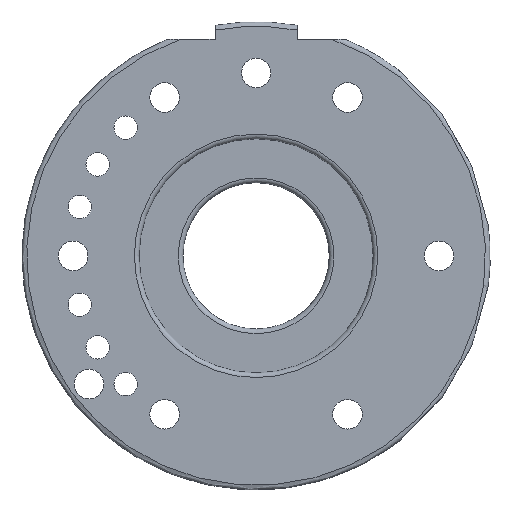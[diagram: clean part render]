
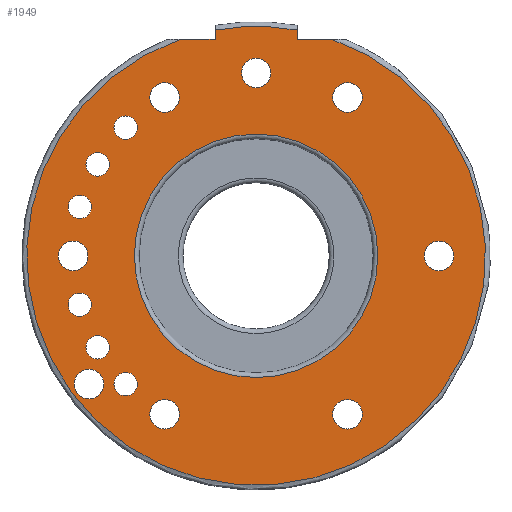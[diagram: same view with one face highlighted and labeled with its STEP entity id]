
A CAD part, front view. The second image highlights one B-rep face of the part: STEP entity #1949.
In plain terms, the highlighted planar face has unit normal (0, -1, 0).
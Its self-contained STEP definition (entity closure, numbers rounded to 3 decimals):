
#35=FACE_BOUND('',#419,.T.);
#36=FACE_BOUND('',#420,.T.);
#37=FACE_BOUND('',#421,.T.);
#38=FACE_BOUND('',#422,.T.);
#39=FACE_BOUND('',#423,.T.);
#40=FACE_BOUND('',#424,.T.);
#41=FACE_BOUND('',#425,.T.);
#42=FACE_BOUND('',#426,.T.);
#43=FACE_BOUND('',#427,.T.);
#44=FACE_BOUND('',#428,.T.);
#45=FACE_BOUND('',#429,.T.);
#46=FACE_BOUND('',#430,.T.);
#47=FACE_BOUND('',#431,.T.);
#48=FACE_BOUND('',#432,.T.);
#49=FACE_BOUND('',#433,.T.);
#149=CIRCLE('',#2073,78.4);
#173=CIRCLE('',#2114,41.6);
#178=CIRCLE('',#2119,41.6);
#179=CIRCLE('',#2121,78.4);
#180=CIRCLE('',#2122,5.053);
#181=CIRCLE('',#2123,5.053);
#182=CIRCLE('',#2124,5.053);
#183=CIRCLE('',#2125,5.053);
#184=CIRCLE('',#2126,5.053);
#185=CIRCLE('',#2127,5.053);
#186=CIRCLE('',#2128,4.);
#187=CIRCLE('',#2129,4.);
#188=CIRCLE('',#2130,4.);
#189=CIRCLE('',#2131,4.);
#190=CIRCLE('',#2132,4.);
#191=CIRCLE('',#2133,4.);
#192=CIRCLE('',#2134,5.);
#193=CIRCLE('',#2135,5.);
#194=CIRCLE('',#2136,5.05);
#315=FACE_OUTER_BOUND('',#418,.T.);
#418=EDGE_LOOP('',(#1476,#1477,#1478,#1479,#1480,#1481));
#419=EDGE_LOOP('',(#1482));
#420=EDGE_LOOP('',(#1483));
#421=EDGE_LOOP('',(#1484));
#422=EDGE_LOOP('',(#1485));
#423=EDGE_LOOP('',(#1486));
#424=EDGE_LOOP('',(#1487));
#425=EDGE_LOOP('',(#1488));
#426=EDGE_LOOP('',(#1489));
#427=EDGE_LOOP('',(#1490));
#428=EDGE_LOOP('',(#1491));
#429=EDGE_LOOP('',(#1492));
#430=EDGE_LOOP('',(#1493));
#431=EDGE_LOOP('',(#1494,#1495));
#432=EDGE_LOOP('',(#1496));
#433=EDGE_LOOP('',(#1497,#1498));
#559=LINE('',#3875,#646);
#560=LINE('',#3879,#647);
#561=LINE('',#3880,#648);
#562=LINE('',#3881,#649);
#646=VECTOR('',#2506,10.);
#647=VECTOR('',#2509,10.);
#648=VECTOR('',#2510,10.);
#649=VECTOR('',#2511,10.);
#804=VERTEX_POINT('',#3500);
#805=VERTEX_POINT('',#3513);
#844=VERTEX_POINT('',#3861);
#845=VERTEX_POINT('',#3862);
#849=VERTEX_POINT('',#3873);
#850=VERTEX_POINT('',#3874);
#851=VERTEX_POINT('',#3876);
#852=VERTEX_POINT('',#3878);
#853=VERTEX_POINT('',#3882);
#854=VERTEX_POINT('',#3884);
#855=VERTEX_POINT('',#3886);
#856=VERTEX_POINT('',#3888);
#857=VERTEX_POINT('',#3890);
#858=VERTEX_POINT('',#3892);
#859=VERTEX_POINT('',#3894);
#860=VERTEX_POINT('',#3896);
#861=VERTEX_POINT('',#3898);
#862=VERTEX_POINT('',#3900);
#863=VERTEX_POINT('',#3902);
#864=VERTEX_POINT('',#3904);
#865=VERTEX_POINT('',#3906);
#866=VERTEX_POINT('',#3907);
#867=VERTEX_POINT('',#3910);
#1035=EDGE_CURVE('',#804,#805,#149,.T.);
#1086=EDGE_CURVE('',#844,#845,#173,.T.);
#1091=EDGE_CURVE('',#845,#844,#178,.T.);
#1092=EDGE_CURVE('',#849,#850,#559,.T.);
#1093=EDGE_CURVE('',#851,#850,#179,.T.);
#1094=EDGE_CURVE('',#851,#852,#560,.T.);
#1095=EDGE_CURVE('',#852,#805,#561,.T.);
#1096=EDGE_CURVE('',#804,#849,#562,.T.);
#1097=EDGE_CURVE('',#853,#853,#180,.T.);
#1098=EDGE_CURVE('',#854,#854,#181,.T.);
#1099=EDGE_CURVE('',#855,#855,#182,.T.);
#1100=EDGE_CURVE('',#856,#856,#183,.T.);
#1101=EDGE_CURVE('',#857,#857,#184,.T.);
#1102=EDGE_CURVE('',#858,#858,#185,.T.);
#1103=EDGE_CURVE('',#859,#859,#186,.T.);
#1104=EDGE_CURVE('',#860,#860,#187,.T.);
#1105=EDGE_CURVE('',#861,#861,#188,.T.);
#1106=EDGE_CURVE('',#862,#862,#189,.T.);
#1107=EDGE_CURVE('',#863,#863,#190,.T.);
#1108=EDGE_CURVE('',#864,#864,#191,.T.);
#1109=EDGE_CURVE('',#865,#866,#192,.T.);
#1110=EDGE_CURVE('',#866,#865,#193,.T.);
#1111=EDGE_CURVE('',#867,#867,#194,.T.);
#1476=ORIENTED_EDGE('',*,*,#1092,.T.);
#1477=ORIENTED_EDGE('',*,*,#1093,.F.);
#1478=ORIENTED_EDGE('',*,*,#1094,.T.);
#1479=ORIENTED_EDGE('',*,*,#1095,.T.);
#1480=ORIENTED_EDGE('',*,*,#1035,.F.);
#1481=ORIENTED_EDGE('',*,*,#1096,.T.);
#1482=ORIENTED_EDGE('',*,*,#1097,.T.);
#1483=ORIENTED_EDGE('',*,*,#1098,.T.);
#1484=ORIENTED_EDGE('',*,*,#1099,.T.);
#1485=ORIENTED_EDGE('',*,*,#1100,.T.);
#1486=ORIENTED_EDGE('',*,*,#1101,.T.);
#1487=ORIENTED_EDGE('',*,*,#1102,.T.);
#1488=ORIENTED_EDGE('',*,*,#1103,.T.);
#1489=ORIENTED_EDGE('',*,*,#1104,.T.);
#1490=ORIENTED_EDGE('',*,*,#1105,.T.);
#1491=ORIENTED_EDGE('',*,*,#1106,.T.);
#1492=ORIENTED_EDGE('',*,*,#1107,.T.);
#1493=ORIENTED_EDGE('',*,*,#1108,.T.);
#1494=ORIENTED_EDGE('',*,*,#1109,.T.);
#1495=ORIENTED_EDGE('',*,*,#1110,.T.);
#1496=ORIENTED_EDGE('',*,*,#1111,.T.);
#1497=ORIENTED_EDGE('',*,*,#1086,.F.);
#1498=ORIENTED_EDGE('',*,*,#1091,.F.);
#1805=PLANE('',#2120);
#1949=ADVANCED_FACE('',(#315,#35,#36,#37,#38,#39,#40,#41,#42,#43,#44,#45,
#46,#47,#48,#49),#1805,.T.);
#2073=AXIS2_PLACEMENT_3D('',#3514,#2396,#2397);
#2114=AXIS2_PLACEMENT_3D('',#3863,#2492,#2493);
#2119=AXIS2_PLACEMENT_3D('',#3871,#2502,#2503);
#2120=AXIS2_PLACEMENT_3D('',#3872,#2504,#2505);
#2121=AXIS2_PLACEMENT_3D('',#3877,#2507,#2508);
#2122=AXIS2_PLACEMENT_3D('',#3883,#2512,#2513);
#2123=AXIS2_PLACEMENT_3D('',#3885,#2514,#2515);
#2124=AXIS2_PLACEMENT_3D('',#3887,#2516,#2517);
#2125=AXIS2_PLACEMENT_3D('',#3889,#2518,#2519);
#2126=AXIS2_PLACEMENT_3D('',#3891,#2520,#2521);
#2127=AXIS2_PLACEMENT_3D('',#3893,#2522,#2523);
#2128=AXIS2_PLACEMENT_3D('',#3895,#2524,#2525);
#2129=AXIS2_PLACEMENT_3D('',#3897,#2526,#2527);
#2130=AXIS2_PLACEMENT_3D('',#3899,#2528,#2529);
#2131=AXIS2_PLACEMENT_3D('',#3901,#2530,#2531);
#2132=AXIS2_PLACEMENT_3D('',#3903,#2532,#2533);
#2133=AXIS2_PLACEMENT_3D('',#3905,#2534,#2535);
#2134=AXIS2_PLACEMENT_3D('',#3908,#2536,#2537);
#2135=AXIS2_PLACEMENT_3D('',#3909,#2538,#2539);
#2136=AXIS2_PLACEMENT_3D('',#3911,#2540,#2541);
#2396=DIRECTION('center_axis',(0.,1.,0.));
#2397=DIRECTION('ref_axis',(1.,0.,0.));
#2492=DIRECTION('center_axis',(0.,-1.,0.));
#2493=DIRECTION('ref_axis',(1.,0.,0.));
#2502=DIRECTION('center_axis',(0.,-1.,0.));
#2503=DIRECTION('ref_axis',(1.,0.,0.));
#2504=DIRECTION('center_axis',(0.,-1.,0.));
#2505=DIRECTION('ref_axis',(0.,0.,-1.));
#2506=DIRECTION('',(0.,0.,1.));
#2507=DIRECTION('center_axis',(0.,1.,0.));
#2508=DIRECTION('ref_axis',(1.,0.,0.));
#2509=DIRECTION('',(0.,0.,-1.));
#2510=DIRECTION('',(-1.,0.,0.));
#2511=DIRECTION('',(-1.,0.,0.));
#2512=DIRECTION('center_axis',(0.,1.,0.));
#2513=DIRECTION('ref_axis',(1.,0.,0.));
#2514=DIRECTION('center_axis',(0.,1.,0.));
#2515=DIRECTION('ref_axis',(1.,0.,0.));
#2516=DIRECTION('center_axis',(0.,1.,0.));
#2517=DIRECTION('ref_axis',(1.,0.,0.));
#2518=DIRECTION('center_axis',(0.,1.,0.));
#2519=DIRECTION('ref_axis',(1.,0.,0.));
#2520=DIRECTION('center_axis',(0.,1.,0.));
#2521=DIRECTION('ref_axis',(1.,0.,0.));
#2522=DIRECTION('center_axis',(0.,1.,0.));
#2523=DIRECTION('ref_axis',(1.,0.,0.));
#2524=DIRECTION('center_axis',(0.,1.,0.));
#2525=DIRECTION('ref_axis',(1.,0.,0.));
#2526=DIRECTION('center_axis',(0.,1.,0.));
#2527=DIRECTION('ref_axis',(1.,0.,0.));
#2528=DIRECTION('center_axis',(0.,1.,0.));
#2529=DIRECTION('ref_axis',(1.,0.,0.));
#2530=DIRECTION('center_axis',(0.,1.,0.));
#2531=DIRECTION('ref_axis',(1.,0.,0.));
#2532=DIRECTION('center_axis',(0.,1.,0.));
#2533=DIRECTION('ref_axis',(1.,0.,0.));
#2534=DIRECTION('center_axis',(0.,1.,0.));
#2535=DIRECTION('ref_axis',(1.,0.,0.));
#2536=DIRECTION('center_axis',(0.,1.,0.));
#2537=DIRECTION('ref_axis',(1.,0.,0.));
#2538=DIRECTION('center_axis',(0.,1.,0.));
#2539=DIRECTION('ref_axis',(1.,0.,0.));
#2540=DIRECTION('center_axis',(0.,1.,0.));
#2541=DIRECTION('ref_axis',(1.,0.,0.));
#3500=CARTESIAN_POINT('',(25.895,0.,74.));
#3513=CARTESIAN_POINT('',(-25.895,0.,74.));
#3514=CARTESIAN_POINT('Origin',(0.,0.,
0.));
#3861=CARTESIAN_POINT('',(-41.6,0.,0.));
#3862=CARTESIAN_POINT('',(0.,0.,-41.6));
#3863=CARTESIAN_POINT('Origin',(0.,0.,
0.));
#3871=CARTESIAN_POINT('Origin',(0.,0.,
0.));
#3872=CARTESIAN_POINT('Origin',(-60.,0.,0.));
#3873=CARTESIAN_POINT('',(14.,0.,74.));
#3874=CARTESIAN_POINT('',(14.,0.,77.14));
#3875=CARTESIAN_POINT('',(14.,0.,40.));
#3876=CARTESIAN_POINT('',(-14.,0.,77.14));
#3877=CARTESIAN_POINT('Origin',(0.,0.,
0.));
#3878=CARTESIAN_POINT('',(-14.,0.,74.));
#3879=CARTESIAN_POINT('',(-14.,0.,40.));
#3880=CARTESIAN_POINT('',(-46.712,0.,74.));
#3881=CARTESIAN_POINT('',(-13.288,0.,74.));
#3882=CARTESIAN_POINT('',(26.197,0.,-54.127));
#3883=CARTESIAN_POINT('Origin',(31.25,0.,-54.127));
#3884=CARTESIAN_POINT('',(-36.303,0.,-54.127));
#3885=CARTESIAN_POINT('Origin',(-31.25,0.,-54.127));
#3886=CARTESIAN_POINT('',(-67.553,0.,0.));
#3887=CARTESIAN_POINT('Origin',(-62.5,0.,0.));
#3888=CARTESIAN_POINT('',(-36.303,0.,54.127));
#3889=CARTESIAN_POINT('Origin',(-31.25,0.,54.127));
#3890=CARTESIAN_POINT('',(57.447,0.,0.));
#3891=CARTESIAN_POINT('Origin',(62.5,0.,0.));
#3892=CARTESIAN_POINT('',(26.197,0.,54.127));
#3893=CARTESIAN_POINT('Origin',(31.25,0.,54.127));
#3894=CARTESIAN_POINT('',(-58.127,0.,-31.25));
#3895=CARTESIAN_POINT('Origin',(-54.127,0.,-31.25));
#3896=CARTESIAN_POINT('',(-64.227,0.,-16.702));
#3897=CARTESIAN_POINT('Origin',(-60.227,0.,-16.702));
#3898=CARTESIAN_POINT('',(-64.227,0.,16.702));
#3899=CARTESIAN_POINT('Origin',(-60.227,0.,16.702));
#3900=CARTESIAN_POINT('',(-48.578,0.,43.807));
#3901=CARTESIAN_POINT('Origin',(-44.578,0.,43.807));
#3902=CARTESIAN_POINT('',(-58.127,0.,31.25));
#3903=CARTESIAN_POINT('Origin',(-54.127,0.,31.25));
#3904=CARTESIAN_POINT('',(-48.578,0.,-43.807));
#3905=CARTESIAN_POINT('Origin',(-44.578,0.,-43.807));
#3906=CARTESIAN_POINT('',(5.,0.,62.5));
#3907=CARTESIAN_POINT('',(-5.,0.,62.5));
#3908=CARTESIAN_POINT('Origin',(0.,0.,
62.5));
#3909=CARTESIAN_POINT('Origin',(0.,0.,
62.5));
#3910=CARTESIAN_POINT('',(-62.171,0.,-43.831));
#3911=CARTESIAN_POINT('Origin',(-57.121,0.,-43.831));
